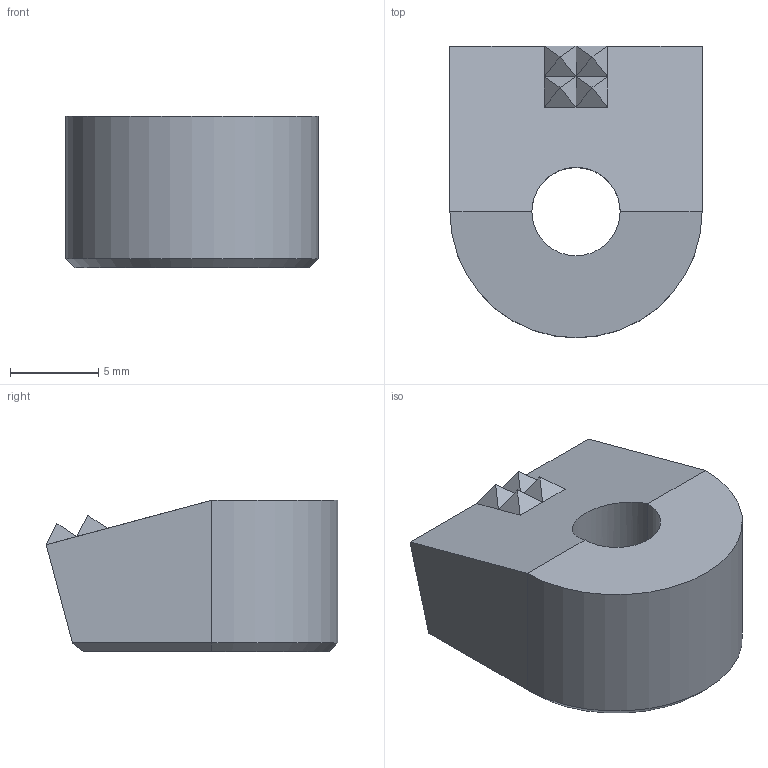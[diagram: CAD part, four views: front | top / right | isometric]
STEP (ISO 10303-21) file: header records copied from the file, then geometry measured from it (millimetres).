
FILE_DESCRIPTION((''),'2;1');
FILE_NAME('3535W001.stp','2001-03-30T12:47:59',(''),(''),'AutoCAD STEP 2000i','AutoCAD 2000i',', , ');
FILE_SCHEMA(('CONFIG_CONTROL_DESIGN'));
Length unit declared in the file: millimetre
Products named in the file (2): 3535D-MDTA; 3535D-MDT
Assembly tree (1 placements, depth 2):
  3535D-MDTA
    3535D-MDT
Bounding box: 14.28 x 16.51 x 8.56 mm (x, y, z)
Volume: 1425.3 mm3; surface area: 901.3 mm2
Topology: 1 solids, 1 shells, 29 faces, 59 edges, 31 vertices
Faces by surface type: plane 25, cylinder 3, cone 1
Entity records: 833 total; most frequent: DIRECTION 128, CARTESIAN_POINT 121, ORIENTED_EDGE 118, EDGE_CURVE 59, VECTOR 52, LINE 52, AXIS2_PLACEMENT_3D 38, VERTEX_POINT 31
